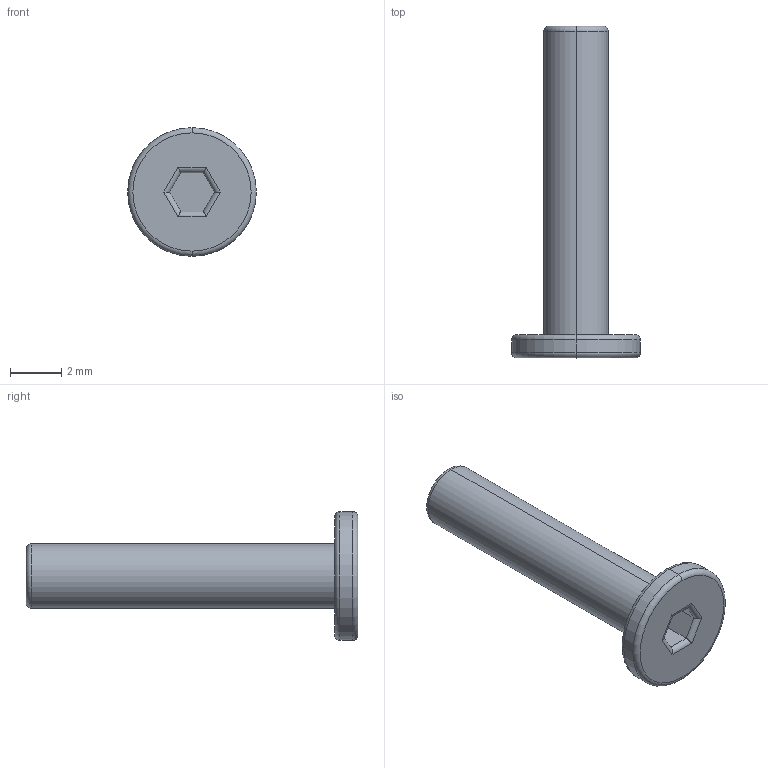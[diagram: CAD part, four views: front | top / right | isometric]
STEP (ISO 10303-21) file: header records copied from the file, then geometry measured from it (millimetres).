
FILE_DESCRIPTION (( 'STEP AP203' ), '1' );
FILE_NAME ('蹟佪-M2.5 x 12.STEP', '2025-06-04T09:07:17', ( '' ), ( '' ), 'SwSTEP 2.0', 'SolidWorks 2020', '' );
FILE_SCHEMA (( 'CONFIG_CONTROL_DESIGN' ));
Length unit declared in the file: millimetre
Products named in the file (1): 蹟佪-M2.5 x 12
Bounding box: 5 x 12.9 x 5 mm (x, y, z)
Volume: 73.3 mm3; surface area: 151.6 mm2
Topology: 1 solids, 1 shells, 26 faces, 54 edges, 32 vertices
Faces by surface type: cylinder 10, plane 10, torus 6
Entity records: 759 total; most frequent: CARTESIAN_POINT 131, DIRECTION 122, ORIENTED_EDGE 108, EDGE_CURVE 54, AXIS2_PLACEMENT_3D 47, VERTEX_POINT 32, VECTOR 28, EDGE_LOOP 28
